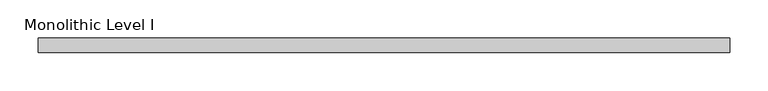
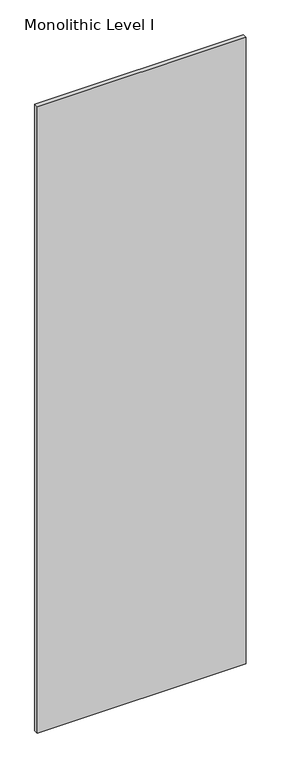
"""IFC4 building model written with IfcOpenShell, lengths in millimetres: proxy geometry, Panel-Fascia-Teknion-Altos-Standard : Monolithic Level I."""

from ifc_helpers import new_model, si_unit, frame, origin, place, context, project, spatial, polyline, outline, extrude, source, transform, mapped, element, save


def monolithic_level_i_9525b381(model_context):
    return source(origin(), model_context, "Body", "SweptSolid", [
        extrude(outline(polyline([(454.025, -9.525), (-454.025, -9.525), (-454.025, 9.525), (454.025, 9.525), (454.025, -9.525)])), frame((0.0, 0.0, 3.175), z_axis=(0.0, 0.0, 1.0), x_axis=(1.0, 0.0, 0.0)), (0.0, 0.0, 1.0), 2877.693),
    ])


if __name__ == "__main__":
    model = new_model("IFC4")
    model_context = context("Model", 3, world=origin())
    ifc_project = project(units=[si_unit("LENGTHUNIT", "METRE", prefix="MILLI")], contexts=[model_context])
    site = spatial("IfcSite", under=ifc_project)
    building = spatial("IfcBuilding", under=site)
    placement = place(None, origin())
    monolithic_level_i_shape = monolithic_level_i_9525b381(model_context)
    element("IfcBuildingElementProxy", 1, Name="Panel-Fascia-Teknion-Altos-Standard : Monolithic Level I", ObjectType="Panel-Fascia-Teknion-Altos-Standard : Monolithic Level I", at=placement, inside=building, context=model_context, shape_type="MappedRepresentation", body=[
        mapped(monolithic_level_i_shape, transform((0.0, 0.0, 0.0), x_axis=(1.0, 0.0, 0.0), y_axis=(0.0, 1.0, 0.0), z_axis=(0.0, 0.0, 1.0))),
    ])
    save(model, "model.ifc")
